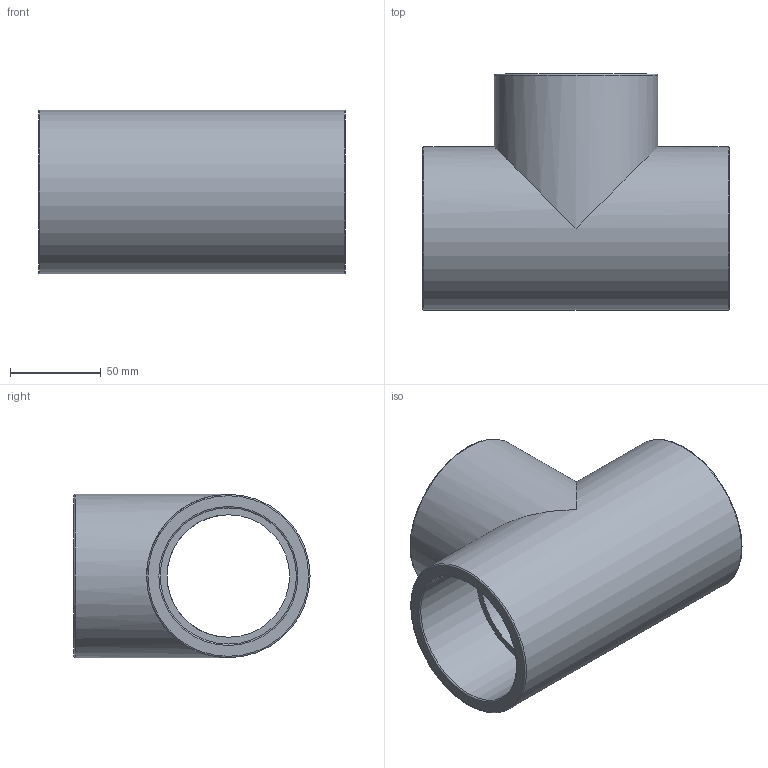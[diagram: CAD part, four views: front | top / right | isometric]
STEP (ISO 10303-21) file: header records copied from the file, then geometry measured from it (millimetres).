
FILE_DESCRIPTION(/* description */ ('PLASSON TEE-CEMENT PVC 75'),/* implementation_level */ '2;1');
FILE_NAME(/* name */ 'C:\Dropbox\KIMPROJECTS-Inventor\99-16-3568-Processing\PVC Catalog 2017\050400\050400075.ipt.stp',/* time_stamp */ '2017-12-07T15:54:26+02:00',/* author */ ('KIM'),/* organization */ (''),/* preprocessor_version */ 'ST-DEVELOPER v15.6',/* originating_system */ 'Autodesk Inventor 2015',/* authorisation */ '');
FILE_SCHEMA (('AUTOMOTIVE_DESIGN { 1 0 10303 214 3 1 1 }'));
Length unit declared in the file: millimetre
Products named in the file (1): 050400075
Bounding box: 169 x 130 x 90 mm (x, y, z)
Volume: 455474.6 mm3; surface area: 111326.3 mm2
Topology: 1 solids, 1 shells, 19 faces, 43 edges, 28 vertices
Faces by surface type: cylinder 7, torus 6, plane 6
Full cylindrical faces by diameter (mm): 67.5 x2, 75 x3, 90 x2
Entity records: 446 total; most frequent: DIRECTION 84, CARTESIAN_POINT 64, ORIENTED_EDGE 44, AXIS2_PLACEMENT_3D 42, EDGE_LOOP 40, VERTEX_POINT 22, EDGE_CURVE 22, FACE_BOUND 21
